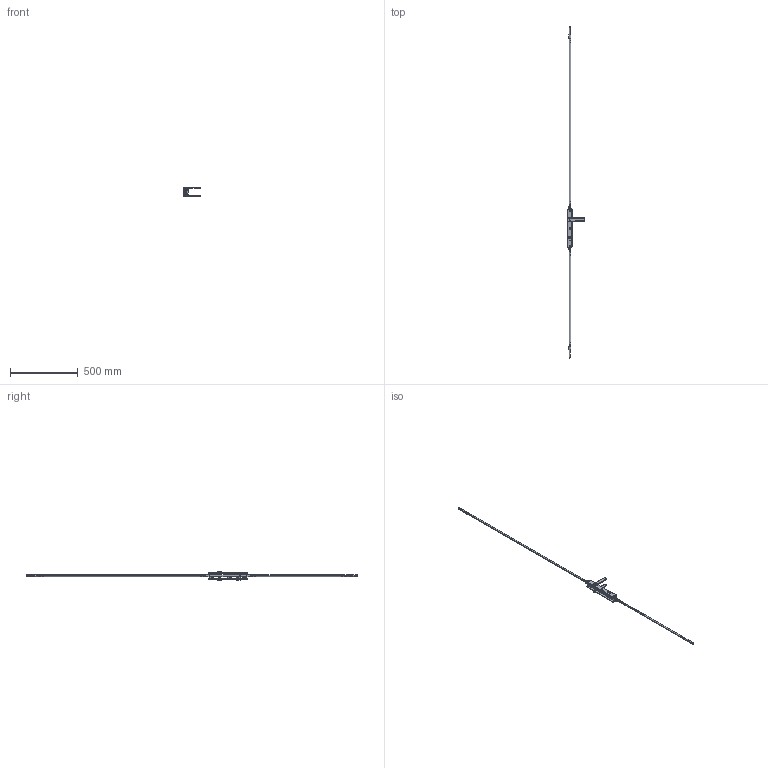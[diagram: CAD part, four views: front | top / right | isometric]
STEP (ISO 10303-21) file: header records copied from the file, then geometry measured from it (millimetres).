
FILE_DESCRIPTION (( 'STEP AP214' ), '1' );
FILE_NAME ('TPL-H-APC-105-B 17Oct2024.STEP', '2024-10-17T04:38:07', ( '' ), ( '' ), 'SwSTEP 2.0', 'SolidWorks 2023', '' );
FILE_SCHEMA (( 'AUTOMOTIVE_DESIGN' ));
Length unit declared in the file: millimetre
Products named in the file (22): Copy of LKC-512 Escutcheon plate keyed internal 285mm long zinc - simplified^Copy (2) of TPGen2 handle keyed internal zinc - simplified_TPL-H-APC-606 16Oct2024; Copy of LKC-505 Swing handle zinc - simplified^Copy (2) of TPGen2 handle keyed internal zinc - simplified_TPL-H-APC-606 16Oct2024; Copy of LKC-586 Spindle square 8mm with M4 hole^Copy (2) of TPGen2 handle keyed internal zinc - simplified_TPL-H-APC-606 16Oct2024_38mm; Copy of TPLGen2 lock body keyed^Copy (2) of TPLGen2 lock body keyed assembly_TPL-H-APC-606 16Oct2024_Right; Copy of TPL-036 Lock cylinder double key C4 3-5 PIN 55 (23-32)mm^TPL-H-APC-606 16Oct2024_Right; Copy of LKC-514 Escutcheon plate keyed external 285mm long zinc - simplified^Copy of TPGen2 handle keyed external zinc - simplified_TPL-H-APC-606 16Oct2024; TPL-H-APC-105-B 17Oct2024; Copy of LKC-540 Transmission rod aluminium system TPLGen2^TPL-H-APC-606 16Oct2024_2885mm; Copy of LKC-585 Rotator body zinc^Copy of TPGen2 handle keyed external zinc - simplified_TPL-H-APC-606 16Oct2024; Copy of LKC-584 Pivot body zinc - simplified^Copy (2) of TPGen2 handle keyed internal zinc - simplified_TPL-H-APC-606 16Oct2024; Copy of TPGen2 handle keyed external zinc - simplified^TPL-H-APC-606 16Oct2024_Left; Copy of LKC-576 Bolt adaptor - simplified^TPL-H-APC-606 16Oct2024; Copy of LKC-584 Pivot body zinc - simplified^Copy of TPGen2 handle keyed external zinc - simplified_TPL-H-APC-606 16Oct2024; Copy of TPL-H-APC-515 04Oct2024^TPL-H-APC-606 16Oct2024; Copy of LKC-505 Swing handle zinc - simplified^Copy of TPGen2 handle keyed external zinc - simplified_TPL-H-APC-606 16Oct2024; Copy (2) of LKC-540 Transmission rod aluminium system TPLGen2^TPL-H-APC-606 16Oct2024_2885mm; Copy of LKC-532 Rod connector - simplified^TPL-H-APC-606 16Oct2024; Copy (2) of TPLGen2 lock body keyed assembly^TPL-H-APC-606 16Oct2024_Bolts retracted - right; Copy (2) of TPGen2 handle keyed internal zinc - simplified^TPL-H-APC-606 16Oct2024_Right; Copy of TPL-H-APC-517 04Oct2024^TPL-H-APC-606 16Oct2024; Copy of LKC-585 Rotator body zinc^Copy (2) of TPGen2 handle keyed internal zinc - simplified_TPL-H-APC-606 16Oct2024; Copy of TPLGen2 push rod - simplified^Copy (2) of TPLGen2 lock body keyed assembly_TPL-H-APC-606 16Oct2024_Female thread M10
Assembly tree (30 placements, depth 3):
  TPL-H-APC-105-B 17Oct2024
    Copy (2) of TPLGen2 lock body keyed assembly^TPL-H-APC-606 16Oct2024_Bolts retracted - right
      Copy of TPLGen2 lock body keyed^Copy (2) of TPLGen2 lock body keyed assembly_TPL-H-APC-606 16Oct2024_Right
      Copy of TPLGen2 push rod - simplified^Copy (2) of TPLGen2 lock body keyed assembly_TPL-H-APC-606 16Oct2024_Female thread M10  x2
    Copy (2) of TPGen2 handle keyed internal zinc - simplified^TPL-H-APC-606 16Oct2024_Right
      Copy of LKC-512 Escutcheon plate keyed internal 285mm long zinc - simplified^Copy (2) of TPGen2 handle keyed internal zinc - simplified_TPL-H-APC-606 16Oct2024
      Copy of LKC-505 Swing handle zinc - simplified^Copy (2) of TPGen2 handle keyed internal zinc - simplified_TPL-H-APC-606 16Oct2024
      Copy of LKC-585 Rotator body zinc^Copy (2) of TPGen2 handle keyed internal zinc - simplified_TPL-H-APC-606 16Oct2024
      Copy of LKC-586 Spindle square 8mm with M4 hole^Copy (2) of TPGen2 handle keyed internal zinc - simplified_TPL-H-APC-606 16Oct2024_38mm
      Copy of LKC-584 Pivot body zinc - simplified^Copy (2) of TPGen2 handle keyed internal zinc - simplified_TPL-H-APC-606 16Oct2024
    Copy of TPGen2 handle keyed external zinc - simplified^TPL-H-APC-606 16Oct2024_Left
      Copy of LKC-514 Escutcheon plate keyed external 285mm long zinc - simplified^Copy of TPGen2 handle keyed external zinc - simplified_TPL-H-APC-606 16Oct2024
      Copy of LKC-505 Swing handle zinc - simplified^Copy of TPGen2 handle keyed external zinc - simplified_TPL-H-APC-606 16Oct2024
      Copy of LKC-585 Rotator body zinc^Copy of TPGen2 handle keyed external zinc - simplified_TPL-H-APC-606 16Oct2024
      Copy of LKC-584 Pivot body zinc - simplified^Copy of TPGen2 handle keyed external zinc - simplified_TPL-H-APC-606 16Oct2024
    Copy of TPL-036 Lock cylinder double key C4 3-5 PIN 55 (23-32)mm^TPL-H-APC-606 16Oct2024_Right
    Copy of LKC-532 Rod connector - simplified^TPL-H-APC-606 16Oct2024  x2
    Copy of LKC-540 Transmission rod aluminium system TPLGen2^TPL-H-APC-606 16Oct2024_2885mm
    Copy (2) of LKC-540 Transmission rod aluminium system TPLGen2^TPL-H-APC-606 16Oct2024_2885mm
    Copy of LKC-576 Bolt adaptor - simplified^TPL-H-APC-606 16Oct2024  x2
    Copy of TPL-H-APC-517 04Oct2024^TPL-H-APC-606 16Oct2024  x2
    Copy of TPL-H-APC-515 04Oct2024^TPL-H-APC-606 16Oct2024  x6
Bounding box: 125.62 x 2446 x 68.92 mm (x, y, z)
Volume: 412000 mm3; surface area: 273196.6 mm2
Topology: 27 solids, 27 shells, 2240 faces, 5419 edges, 3262 vertices
Faces by surface type: cylinder 704, plane 614, bspline 448, torus 228, cone 184, sphere 62
Entity records: 52379 total; most frequent: CARTESIAN_POINT 22930, ORIENTED_EDGE 6382, DIRECTION 5611, EDGE_CURVE 3191, AXIS2_PLACEMENT_3D 2280, VERTEX_POINT 1923, EDGE_LOOP 1490, ADVANCED_FACE 1357
